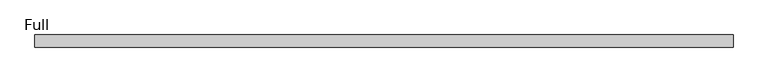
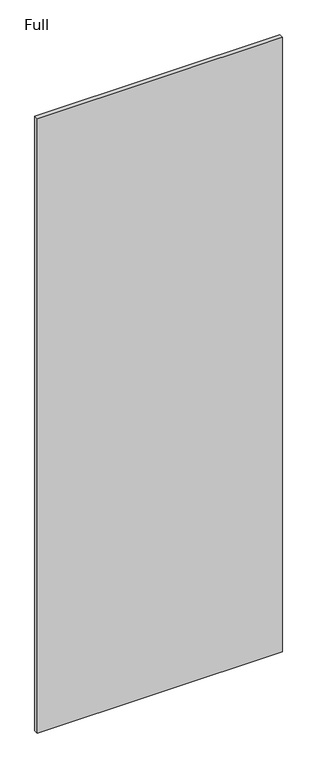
"""IFC4 building model written with IfcOpenShell, lengths in millimetres: proxy geometry, Panel-Fascia-Teknion-Altos-Standard : Full."""

from ifc_helpers import new_model, si_unit, frame, origin, place, context, project, spatial, polyline, outline, extrude, source, transform, mapped, element, save


def full_178b5045(model_context):
    return source(origin(), model_context, "Body", "SweptSolid", [
        extrude(outline(polyline([(535.9300781, -9.525), (-535.9300781, -9.525), (-535.9300781, 9.525), (535.9300781, 9.525), (535.9300781, -9.525)])), frame((0.0, 0.0, 3.175), z_axis=(0.0, 0.0, 1.0), x_axis=(1.0, 0.0, 0.0)), (0.0, 0.0, 1.0), 2840.736),
    ])


if __name__ == "__main__":
    model = new_model("IFC4")
    model_context = context("Model", 3, world=origin())
    ifc_project = project(units=[si_unit("LENGTHUNIT", "METRE", prefix="MILLI")], contexts=[model_context])
    site = spatial("IfcSite", under=ifc_project)
    building = spatial("IfcBuilding", under=site)
    placement = place(None, origin())
    full_shape = full_178b5045(model_context)
    element("IfcBuildingElementProxy", 1, Name="Panel-Fascia-Teknion-Altos-Standard : Full", ObjectType="Panel-Fascia-Teknion-Altos-Standard : Full", at=placement, inside=building, context=model_context, shape_type="MappedRepresentation", body=[
        mapped(full_shape, transform((0.0, 0.0, 0.0), x_axis=(1.0, 0.0, 0.0), y_axis=(0.0, 1.0, 0.0), z_axis=(0.0, 0.0, 1.0))),
    ])
    save(model, "model.ifc")
